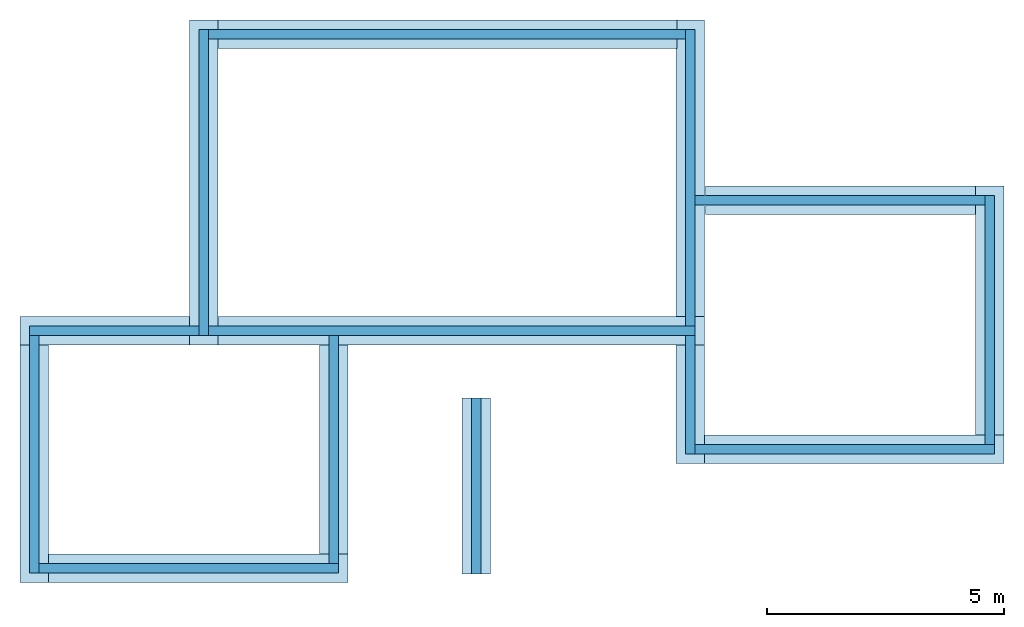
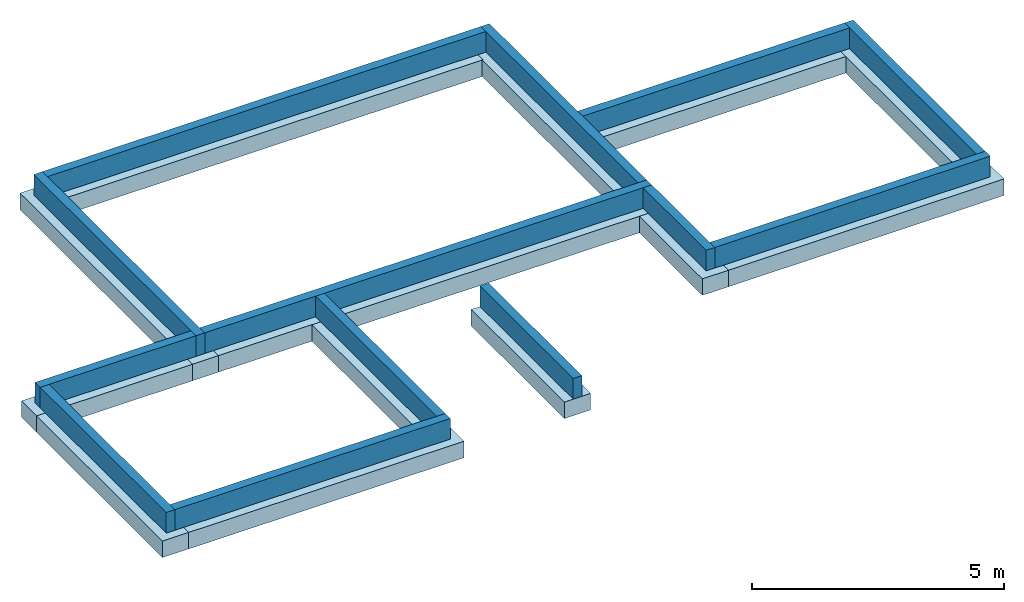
# One storey: 13 footings, 13 walls.
"""IFC4 building model written with IfcOpenShell, lengths in metres."""

from ifc_helpers import new_model, entity, si_unit, converted_unit, frame, frame_2d, origin, origin_with_axes, place, context, subcontext, project, spatial, rectangle, extrude, faceted_brep, material, layer, layer_set, layer_usage, element, save


model = new_model("IFC4")

# Units and contexts
model_context = context("Model", 3, precision=1e-05, world=origin())
body_context = subcontext(model_context, "Body", "Model", "MODEL_VIEW")
ifc_project = project(units=[si_unit("LENGTHUNIT", "METRE"), si_unit("AREAUNIT", "SQUARE_METRE"), si_unit("VOLUMEUNIT", "CUBIC_METRE"), si_unit("MASSUNIT", "GRAM", prefix="KILO"), converted_unit("PLANEANGLEUNIT", "DEGREE", entity("IfcPlaneAngleMeasure", 0.0174532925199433), si_unit("PLANEANGLEUNIT", "RADIAN"), dimensions=[0, 0, 0, 0, 0, 0, 0])], contexts=[model_context])

# Building, storey
building_placement = place(None, origin())
building = spatial("IfcBuilding", under=ifc_project, at=building_placement, Name="Projet de Construction", CompositionType="ELEMENT")
storey_placement = place(building_placement, frame((0.0, 0.0, -1.15)))
storey = spatial("IfcBuildingStorey", under=building, at=storey_placement, Name="Fondations", CompositionType="ELEMENT", Elevation=-1.15)

# Footings
ifc_material_1 = material()
footing_1_placement = place(storey_placement, frame((-7.2859375, 1.89979166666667, -2.27373675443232e-16), z_axis=(0.0, 0.0, 1.0), x_axis=(-1.0, 1.27380210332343e-16, 0.0)))
element("IfcFooting", 1, at=footing_1_placement, inside=storey, material=ifc_material_1, PredefinedType="STRIP_FOOTING", context=body_context, shape_type="SweptSolid", body=[
    extrude(rectangle(XDim=0.6, YDim=0.4, at=frame_2d((0.3, 0.2), x_axis=(1.0, 0.0))), frame((0.0, 0.0, 0.0), z_axis=(1.0, 0.0, 0.0), x_axis=(0.0, 1.0, 0.0)), (0.0, 0.0, 1.0), 3.57),
])
ifc_material_2 = material()
footing_2_placement = place(storey_placement, frame((-10.2559375, -3.70020833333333, -2.27373675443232e-16)))
element("IfcFooting", 2, at=footing_2_placement, inside=storey, material=ifc_material_2, PredefinedType="STRIP_FOOTING", context=body_context, shape_type="SweptSolid", body=[
    extrude(rectangle(XDim=0.6, YDim=0.4, at=frame_2d((0.3, 0.2), x_axis=(1.0, 0.0))), frame((0.0, 0.0, 0.0), z_axis=(1.0, 0.0, 0.0), x_axis=(0.0, 1.0, 0.0)), (0.0, 0.0, 1.0), 6.31),
])
ifc_material_3 = material()
footing_3_placement = place(storey_placement, frame((-10.8559375, 1.29979166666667, -2.27373675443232e-16), z_axis=(0.0, 0.0, 1.0), x_axis=(-3.63797880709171e-16, -1.0, 0.0)))
element("IfcFooting", 3, at=footing_3_placement, inside=storey, material=ifc_material_3, PredefinedType="STRIP_FOOTING", context=body_context, shape_type="SweptSolid", body=[
    extrude(rectangle(XDim=0.6, YDim=0.4, at=frame_2d((0.3, 0.2), x_axis=(1.0, 0.0))), frame((0.0, 0.0, 0.0), z_axis=(1.0, 0.0, 0.0), x_axis=(0.0, 1.0, 0.0)), (0.0, 0.0, 1.0), 5.0),
])
ifc_material_4 = material()
footing_4_placement = place(storey_placement, frame((9.2640625, 4.63979166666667, -2.27373675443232e-16), z_axis=(0.0, 0.0, 1.0), x_axis=(-1.0, 1.59840896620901e-16, 0.0)))
element("IfcFooting", 4, at=footing_4_placement, inside=storey, material=ifc_material_4, PredefinedType="STRIP_FOOTING", context=body_context, shape_type="SweptSolid", body=[
    extrude(rectangle(XDim=0.6, YDim=0.4, at=frame_2d((0.3, 0.2), x_axis=(1.0, 0.0))), frame((0.0, 0.0, 0.0), z_axis=(1.0, 0.0, 0.0), x_axis=(0.0, 1.0, 0.0)), (0.0, 0.0, 1.0), 5.69),
])
ifc_material_5 = material()
footing_5_placement = place(storey_placement, frame((9.8640625, -0.600208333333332, -2.27373675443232e-16), z_axis=(0.0, 0.0, 1.0), x_axis=(0.0, 1.0, 0.0)))
element("IfcFooting", 5, at=footing_5_placement, inside=storey, material=ifc_material_5, PredefinedType="STRIP_FOOTING", context=body_context, shape_type="SweptSolid", body=[
    extrude(rectangle(XDim=0.6, YDim=0.4, at=frame_2d((0.3, 0.2), x_axis=(1.0, 0.0))), frame((0.0, 0.0, 0.0), z_axis=(1.0, 0.0, 0.0), x_axis=(0.0, 1.0, 0.0)), (0.0, 0.0, 1.0), 5.24),
])
ifc_material_6 = material()
footing_6_placement = place(storey_placement, frame((3.5540625, -1.20020833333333, -2.27373675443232e-16)))
element("IfcFooting", 6, at=footing_6_placement, inside=storey, material=ifc_material_6, PredefinedType="STRIP_FOOTING", context=body_context, shape_type="SweptSolid", body=[
    extrude(rectangle(XDim=0.6, YDim=0.4, at=frame_2d((0.3, 0.2), x_axis=(1.0, 0.0))), frame((0.0, 0.0, 0.0), z_axis=(1.0, 0.0, 0.0), x_axis=(0.0, 1.0, 0.0)), (0.0, 0.0, 1.0), 6.31),
])
ifc_material_7 = material()
footing_7_placement = place(storey_placement, frame((2.9740625, 8.13979166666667, -2.27373675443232e-16), z_axis=(0.0, 0.0, 1.0), x_axis=(-1.0, 9.41505902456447e-17, 0.0)))
element("IfcFooting", 7, at=footing_7_placement, inside=storey, material=ifc_material_7, PredefinedType="STRIP_FOOTING", context=body_context, shape_type="SweptSolid", body=[
    extrude(rectangle(XDim=0.6, YDim=0.4, at=frame_2d((0.3, 0.2), x_axis=(1.0, 0.0))), frame((0.0, 0.0, 0.0), z_axis=(1.0, 0.0, 0.0), x_axis=(0.0, 1.0, 0.0)), (0.0, 0.0, 1.0), 9.66),
])
ifc_material_8 = material()
footing_8_placement = place(storey_placement, frame((-6.6859375, 1.29979166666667, -2.27373675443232e-16)))
element("IfcFooting", 8, at=footing_8_placement, inside=storey, material=ifc_material_8, PredefinedType="STRIP_FOOTING", context=body_context, shape_type="SweptSolid", body=[
    extrude(rectangle(XDim=0.6, YDim=0.4, at=frame_2d((0.3, 0.2), x_axis=(1.0, 0.0))), frame((0.0, 0.0, 0.0), z_axis=(1.0, 0.0, 0.0), x_axis=(0.0, 1.0, 0.0)), (0.0, 0.0, 1.0), 10.24),
])
ifc_material_9 = material()
footing_9_placement = place(storey_placement, frame((2.9540625, 1.89979166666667, -2.27373675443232e-16)))
element("IfcFooting", 9, at=footing_9_placement, inside=storey, material=ifc_material_9, PredefinedType="STRIP_FOOTING", context=body_context, shape_type="Brep", body=[
    faceted_brep([(0.0, 0.0, 0.0), (0.6, 0.0, 0.0), (0.6, 6.24, 0.0), (0.0200000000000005, 6.24, 0.0), (0.0200000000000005, 5.64, 0.0), (4.54747350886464e-16, 5.64, 0.0), (0.6, 0.0, 0.4), (0.0, 0.0, 0.4), (4.54747350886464e-16, 5.64, 0.4), (0.0200000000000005, 5.64, 0.4), (0.0200000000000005, 6.24, 0.4), (0.6, 6.24, 0.4)], [[[0, 1, 2, 3, 4, 5]], [[6, 7, 8, 9, 10, 11]], [[1, 0, 7, 6]], [[2, 1, 6, 11]], [[3, 2, 11, 10]], [[4, 3, 10, 9]], [[5, 4, 9, 8]], [[0, 5, 8, 7]]], orient=[[False], [False], [False], [False], [False], [False], [False], [False]]),
])
ifc_material_10 = material()
footing_10_placement = place(storey_placement, frame((2.9540625, 1.29979166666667, -2.27373675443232e-16), z_axis=(0.0, 0.0, 1.0), x_axis=(-1.81898940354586e-16, -1.0, 0.0)))
element("IfcFooting", 10, at=footing_10_placement, inside=storey, material=ifc_material_10, PredefinedType="STRIP_FOOTING", context=body_context, shape_type="SweptSolid", body=[
    extrude(rectangle(XDim=0.6, YDim=0.4, at=frame_2d((0.3, 0.2), x_axis=(1.0, 0.0))), frame((0.0, 0.0, 0.0), z_axis=(1.0, 0.0, 0.0), x_axis=(0.0, 1.0, 0.0)), (0.0, 0.0, 1.0), 2.5),
])
ifc_material_11 = material()
footing_11_placement = place(storey_placement, frame((-3.9459375, -3.10020833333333, -2.27373675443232e-16), z_axis=(0.0, 0.0, 1.0), x_axis=(0.0, 1.0, 0.0)))
element("IfcFooting", 11, at=footing_11_placement, inside=storey, material=ifc_material_11, PredefinedType="STRIP_FOOTING", context=body_context, shape_type="SweptSolid", body=[
    extrude(rectangle(XDim=0.6, YDim=0.4, at=frame_2d((0.3, 0.2), x_axis=(1.0, 0.0))), frame((0.0, 0.0, 0.0), z_axis=(1.0, 0.0, 0.0), x_axis=(0.0, 1.0, 0.0)), (0.0, 0.0, 1.0), 4.4),
])
ifc_material_12 = material()
footing_12_placement = place(storey_placement, frame((-7.2859375, 8.13979166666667, -2.27373675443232e-16), z_axis=(0.0, 0.0, 1.0), x_axis=(-1.32967061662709e-16, -1.0, 0.0)))
element("IfcFooting", 12, at=footing_12_placement, inside=storey, material=ifc_material_12, PredefinedType="STRIP_FOOTING", context=body_context, shape_type="SweptSolid", body=[
    extrude(rectangle(XDim=0.6, YDim=0.4, at=frame_2d((0.3, 0.2), x_axis=(1.0, 0.0))), frame((0.0, 0.0, 0.0), z_axis=(1.0, 0.0, 0.0), x_axis=(0.0, 1.0, 0.0)), (0.0, 0.0, 1.0), 6.84),
])
ifc_material_13 = material()
footing_13_placement = place(storey_placement, frame((-0.9459375, -3.5229886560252, -4.54747350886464e-16), z_axis=(0.0, 0.0, 1.0), x_axis=(0.0, 1.0, 0.0)))
element("IfcFooting", 13, at=footing_13_placement, inside=storey, material=ifc_material_13, PredefinedType="STRIP_FOOTING", context=body_context, shape_type="SweptSolid", body=[
    extrude(rectangle(XDim=0.6, YDim=0.4, at=frame_2d((0.3, 0.2), x_axis=(1.0, 0.0))), frame((0.0, 0.0, 0.0), z_axis=(1.0, 0.0, 0.0), x_axis=(0.0, 1.0, 0.0)), (0.0, 0.0, 1.0), 3.7),
])

# Walls
ifc_material_14 = material()
ifc_layer_1 = layer(ifc_material_14, 0.2)
ifc_layer_set_1 = layer_set([ifc_layer_1])
ifc_layer_usage_1 = layer_usage(ifc_layer_set_1, "AXIS2", "POSITIVE", 0.0)
wall_1_placement = place(storey_placement, frame((-7.0859375, 7.93979166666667, 0.4), z_axis=(0.0, 0.0, 1.0), x_axis=(-1.41225885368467e-16, -1.0, 0.0)))
element("IfcWall", 14, at=wall_1_placement, inside=storey, material=ifc_layer_usage_1, context=body_context, shape_type="SweptSolid", body=[
    extrude(rectangle(XDim=6.44, YDim=0.2, at=frame_2d((3.22, 0.1), x_axis=(1.0, 0.0))), origin_with_axes(), (0.0, 0.0, 1.0), 0.5),
])
ifc_material_15 = material()
ifc_layer_2 = layer(ifc_material_15, 0.2)
ifc_layer_set_2 = layer_set([ifc_layer_2])
ifc_layer_usage_2 = layer_usage(ifc_layer_set_2, "AXIS2", "POSITIVE", 0.0)
wall_2_placement = place(storey_placement, frame((-6.8859375, 1.49979166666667, 0.4)))
element("IfcWall", 15, at=wall_2_placement, inside=storey, material=ifc_layer_usage_2, context=body_context, shape_type="SweptSolid", body=[
    extrude(rectangle(XDim=10.24, YDim=0.2, at=frame_2d((5.12, 0.1), x_axis=(1.0, 0.0))), origin_with_axes(), (0.0, 0.0, 1.0), 0.5),
])
ifc_material_16 = material()
ifc_layer_3 = layer(ifc_material_16, 0.2)
ifc_layer_set_3 = layer_set([ifc_layer_3])
ifc_layer_usage_3 = layer_usage(ifc_layer_set_3, "AXIS2", "POSITIVE", 0.0)
wall_3_placement = place(storey_placement, frame((3.3540625, 1.69979166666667, 0.4), z_axis=(0.0, 0.0, 1.0), x_axis=(7.28761780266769e-17, 1.0, 0.0)))
element("IfcWall", 16, at=wall_3_placement, inside=storey, material=ifc_layer_usage_3, context=body_context, shape_type="SweptSolid", body=[
    extrude(rectangle(XDim=6.24, YDim=0.2, at=frame_2d((3.12, 0.1), x_axis=(1.0, 0.0))), origin_with_axes(), (0.0, 0.0, 1.0), 0.5),
])
ifc_material_17 = material()
ifc_layer_4 = layer(ifc_material_17, 0.2)
ifc_layer_set_4 = layer_set([ifc_layer_4])
ifc_layer_usage_4 = layer_usage(ifc_layer_set_4, "AXIS2", "POSITIVE", 0.0)
wall_4_placement = place(storey_placement, frame((3.1540625, 7.93979166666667, 0.4), z_axis=(0.0, 0.0, 1.0), x_axis=(-1.0, 9.05871216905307e-17, 0.0)))
element("IfcWall", 17, at=wall_4_placement, inside=storey, material=ifc_layer_usage_4, context=body_context, shape_type="SweptSolid", body=[
    extrude(rectangle(XDim=10.04, YDim=0.2, at=frame_2d((5.02, 0.1), x_axis=(1.0, 0.0))), origin_with_axes(), (0.0, 0.0, 1.0), 0.5),
])
ifc_material_18 = material()
ifc_layer_5 = layer(ifc_material_18, 0.2)
ifc_layer_set_5 = layer_set([ifc_layer_5])
ifc_layer_usage_5 = layer_usage(ifc_layer_set_5, "AXIS2", "POSITIVE", 0.0)
wall_5_placement = place(storey_placement, frame((-7.0859375, 1.69979166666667, 0.4), z_axis=(0.0, 0.0, 1.0), x_axis=(-1.0, 1.27380210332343e-16, 0.0)))
element("IfcWall", 18, at=wall_5_placement, inside=storey, material=ifc_layer_usage_5, context=body_context, shape_type="SweptSolid", body=[
    extrude(rectangle(XDim=3.57, YDim=0.2, at=frame_2d((1.785, 0.1), x_axis=(1.0, 0.0))), origin_with_axes(), (0.0, 0.0, 1.0), 0.5),
])
ifc_material_19 = material()
ifc_layer_6 = layer(ifc_material_19, 0.2)
ifc_layer_set_6 = layer_set([ifc_layer_6])
ifc_layer_usage_6 = layer_usage(ifc_layer_set_6, "AXIS2", "POSITIVE", 0.0)
wall_6_placement = place(storey_placement, frame((-10.6559375, 1.49979166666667, 0.4), z_axis=(0.0, 0.0, 1.0), x_axis=(-3.63797880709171e-16, -1.0, 0.0)))
element("IfcWall", 19, at=wall_6_placement, inside=storey, material=ifc_layer_usage_6, context=body_context, shape_type="SweptSolid", body=[
    extrude(rectangle(XDim=5.0, YDim=0.2, at=frame_2d((2.5, 0.1), x_axis=(1.0, 0.0))), origin_with_axes(), (0.0, 0.0, 1.0), 0.5),
])
ifc_material_20 = material()
ifc_layer_7 = layer(ifc_material_20, 0.2)
ifc_layer_set_7 = layer_set([ifc_layer_7])
ifc_layer_usage_7 = layer_usage(ifc_layer_set_7, "AXIS2", "POSITIVE", 0.0)
wall_7_placement = place(storey_placement, frame((-10.4559375, -3.50020833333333, 0.4)))
element("IfcWall", 20, at=wall_7_placement, inside=storey, material=ifc_layer_usage_7, context=body_context, shape_type="SweptSolid", body=[
    extrude(rectangle(XDim=6.31, YDim=0.2, at=frame_2d((3.155, 0.1), x_axis=(1.0, 0.0))), origin_with_axes(), (0.0, 0.0, 1.0), 0.5),
])
ifc_material_21 = material()
ifc_layer_8 = layer(ifc_material_21, 0.2)
ifc_layer_set_8 = layer_set([ifc_layer_8])
ifc_layer_usage_8 = layer_usage(ifc_layer_set_8, "AXIS2", "POSITIVE", 0.0)
wall_8_placement = place(storey_placement, frame((-4.1459375, -3.30020833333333, 0.4), z_axis=(0.0, 0.0, 1.0), x_axis=(0.0, 1.0, 0.0)))
element("IfcWall", 21, at=wall_8_placement, inside=storey, material=ifc_layer_usage_8, context=body_context, shape_type="SweptSolid", body=[
    extrude(rectangle(XDim=4.8, YDim=0.2, at=frame_2d((2.4, 0.1), x_axis=(1.0, 0.0))), origin_with_axes(), (0.0, 0.0, 1.0), 0.5),
])
ifc_material_22 = material()
ifc_layer_9 = layer(ifc_material_22, 0.2)
ifc_layer_set_9 = layer_set([ifc_layer_9])
ifc_layer_usage_9 = layer_usage(ifc_layer_set_9, "AXIS2", "POSITIVE", 0.0)
wall_9_placement = place(storey_placement, frame((3.1540625, 1.49979166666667, 0.4), z_axis=(0.0, 0.0, 1.0), x_axis=(-1.81898940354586e-16, -1.0, 0.0)))
element("IfcWall", 22, at=wall_9_placement, inside=storey, material=ifc_layer_usage_9, context=body_context, shape_type="SweptSolid", body=[
    extrude(rectangle(XDim=2.5, YDim=0.2, at=frame_2d((1.25, 0.1), x_axis=(1.0, 0.0))), origin_with_axes(), (0.0, 0.0, 1.0), 0.5),
])
ifc_material_23 = material()
ifc_layer_10 = layer(ifc_material_23, 0.2)
ifc_layer_set_10 = layer_set([ifc_layer_10])
ifc_layer_usage_10 = layer_usage(ifc_layer_set_10, "AXIS2", "POSITIVE", 0.0)
wall_10_placement = place(storey_placement, frame((3.3540625, -1.00020833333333, 0.4)))
element("IfcWall", 23, at=wall_10_placement, inside=storey, material=ifc_layer_usage_10, context=body_context, shape_type="SweptSolid", body=[
    extrude(rectangle(XDim=6.31, YDim=0.2, at=frame_2d((3.155, 0.1), x_axis=(1.0, 0.0))), origin_with_axes(), (0.0, 0.0, 1.0), 0.5),
])
ifc_material_24 = material()
ifc_layer_11 = layer(ifc_material_24, 0.2)
ifc_layer_set_11 = layer_set([ifc_layer_11])
ifc_layer_usage_11 = layer_usage(ifc_layer_set_11, "AXIS2", "POSITIVE", 0.0)
wall_11_placement = place(storey_placement, frame((9.6640625, -0.800208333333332, 0.4), z_axis=(0.0, 0.0, 1.0), x_axis=(0.0, 1.0, 0.0)))
element("IfcWall", 24, at=wall_11_placement, inside=storey, material=ifc_layer_usage_11, context=body_context, shape_type="SweptSolid", body=[
    extrude(rectangle(XDim=5.24, YDim=0.2, at=frame_2d((2.62, 0.1), x_axis=(1.0, 0.0))), origin_with_axes(), (0.0, 0.0, 1.0), 0.5),
])
ifc_material_25 = material()
ifc_layer_12 = layer(ifc_material_25, 0.2)
ifc_layer_set_12 = layer_set([ifc_layer_12])
ifc_layer_usage_12 = layer_usage(ifc_layer_set_12, "AXIS2", "POSITIVE", 0.0)
wall_12_placement = place(storey_placement, frame((9.4640625, 4.43979166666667, 0.4), z_axis=(0.0, 0.0, 1.0), x_axis=(-1.0, 1.48853470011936e-16, 0.0)))
element("IfcWall", 25, at=wall_12_placement, inside=storey, material=ifc_layer_usage_12, context=body_context, shape_type="SweptSolid", body=[
    extrude(rectangle(XDim=6.11, YDim=0.2, at=frame_2d((3.055, 0.1), x_axis=(1.0, 0.0))), origin_with_axes(), (0.0, 0.0, 1.0), 0.5),
])
ifc_material_26 = material()
ifc_layer_13 = layer(ifc_material_26, 0.2)
ifc_layer_set_13 = layer_set([ifc_layer_13])
ifc_layer_usage_13 = layer_usage(ifc_layer_set_13, "AXIS2", "POSITIVE", 0.0)
wall_13_placement = place(storey_placement, frame((-1.3459375, 0.177011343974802, 0.4), z_axis=(0.0, 0.0, 1.0), x_axis=(0.0, -1.0, 0.0)))
element("IfcWall", 26, at=wall_13_placement, inside=storey, material=ifc_layer_usage_13, context=body_context, shape_type="SweptSolid", body=[
    extrude(rectangle(XDim=3.7, YDim=0.2, at=frame_2d((1.85, 0.1), x_axis=(1.0, 0.0))), origin_with_axes(), (0.0, 0.0, 1.0), 0.5),
])

save(model, "model.ifc")
